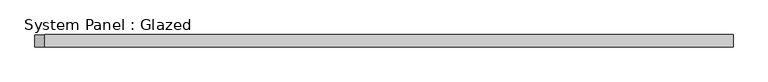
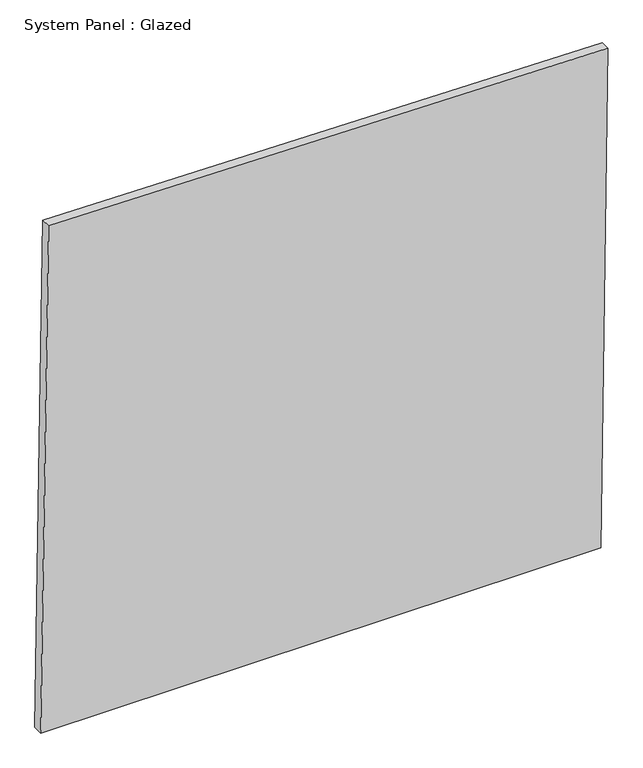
"""IFC4 building model written with IfcOpenShell, lengths in millimetres: plate geometry, System Panel : Glazed."""

from ifc_helpers import new_model, si_unit, frame, origin, place, context, project, spatial, polyline, outline, extrude, source, transform, mapped, element, save


def system_panel_glazed_c43e899d(model_context):
    return source(origin(), model_context, "Body", "SweptSolid", [
        extrude(outline(polyline([(0.0, -717.4372085), (0.0, 699.1925233), (1328.0859975, 717.4372085), (1348.4272627, -697.1957833), (0.0, -717.4372085)])), frame((0.0, -49.5, 0.0), z_axis=(0.0, 1.0, 0.0), x_axis=(0.0, 0.0, 1.0)), (0.0, 0.0, 1.0), 25.0),
    ])


if __name__ == "__main__":
    model = new_model("IFC4")
    model_context = context("Model", 3, world=origin())
    ifc_project = project(units=[si_unit("LENGTHUNIT", "METRE", prefix="MILLI")], contexts=[model_context])
    site = spatial("IfcSite", under=ifc_project)
    building = spatial("IfcBuilding", under=site)
    placement = place(None, origin())
    system_panel_glazed_shape = system_panel_glazed_c43e899d(model_context)
    element("IfcPlate", 1, ObjectType="System Panel : Glazed", at=placement, inside=building, context=model_context, shape_type="MappedRepresentation", body=[
        mapped(system_panel_glazed_shape, transform((0.0, 0.0, 0.0), x_axis=(1.0, 0.0, 0.0), y_axis=(0.0, 1.0, 0.0), z_axis=(0.0, 0.0, 1.0))),
    ])
    save(model, "model.ifc")
